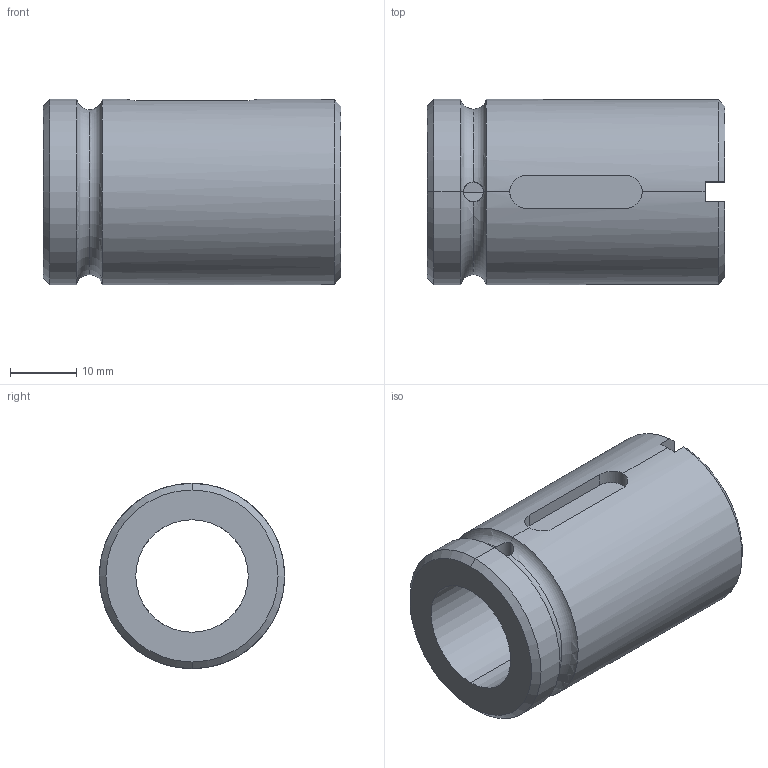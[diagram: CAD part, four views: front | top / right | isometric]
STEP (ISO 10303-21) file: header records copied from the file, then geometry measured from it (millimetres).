
FILE_DESCRIPTION (( 'STEP AP214' ), '1' );
FILE_NAME ('KGM-D 1616.STEP', '2021-01-18T08:46:03', ( 'user' ), ( 'datathink' ), 'SwSTEP 2.0', 'SolidWorks 2013', '' );
FILE_SCHEMA (( 'AUTOMOTIVE_DESIGN' ));
Length unit declared in the file: millimetre
Products named in the file (1): KGM-D 1616
Bounding box: 45 x 28 x 28 mm (x, y, z)
Volume: 16719.9 mm3; surface area: 7274.3 mm2
Topology: 1 solids, 1 shells, 31 faces, 84 edges, 52 vertices
Faces by surface type: plane 12, cylinder 11, torus 4, cone 4
Entity records: 1163 total; most frequent: CARTESIAN_POINT 342, ORIENTED_EDGE 168, DIRECTION 167, EDGE_CURVE 84, AXIS2_PLACEMENT_3D 65, VERTEX_POINT 52, VECTOR 37, LINE 37
